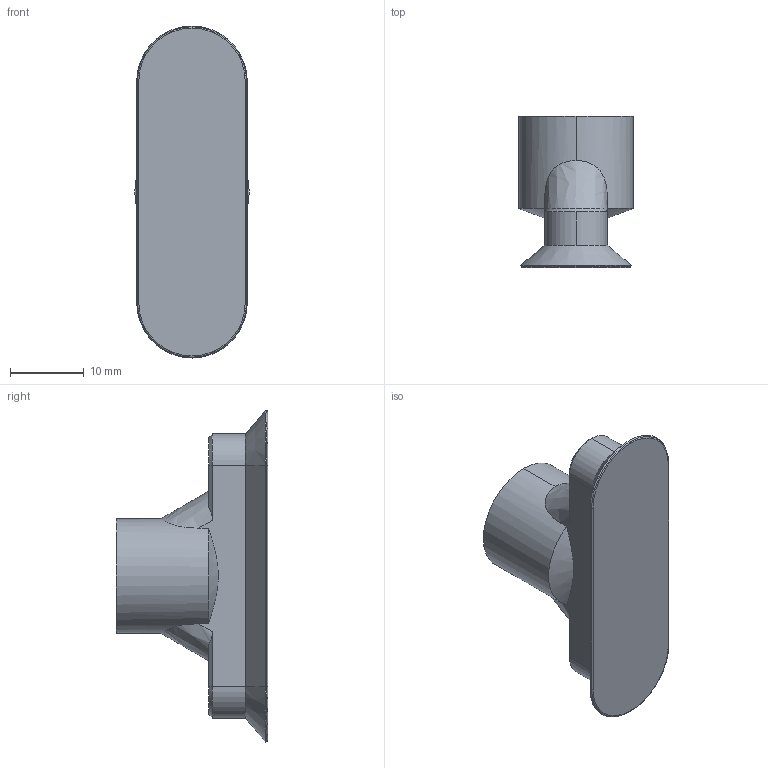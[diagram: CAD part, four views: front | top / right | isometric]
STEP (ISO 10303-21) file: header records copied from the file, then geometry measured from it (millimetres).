
FILE_DESCRIPTION((''),'2;1');
FILE_NAME('W:\Technik\Konstruktion\CAD-Daten\Kundenmodelle\132.45x15.085_Kd.stp','2010-11-26T11:18:47',('WMiller'),(''),'Autodesk Inventor 2009','Autodesk Inventor 2009','');
FILE_SCHEMA(('AUTOMOTIVE_DESIGN { 1 0 10303 214 1 1 1 1 }'));
Length unit declared in the file: millimetre
Products named in the file (1): 132.45x15
Bounding box: 15.5 x 20.5 x 45 mm (x, y, z)
Volume: 3382.6 mm3; surface area: 4484.7 mm2
Topology: 1 solids, 2 shells, 62 faces, 139 edges, 87 vertices
Faces by surface type: plane 24, cylinder 19, cone 14, torus 3, bspline 2
Entity records: 1889 total; most frequent: CARTESIAN_POINT 453, DIRECTION 313, ORIENTED_EDGE 278, EDGE_CURVE 139, AXIS2_PLACEMENT_3D 123, VERTEX_POINT 87, EDGE_LOOP 68, VECTOR 67
